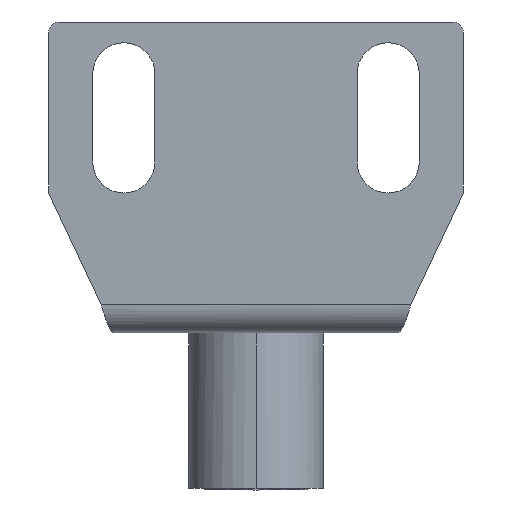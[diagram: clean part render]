
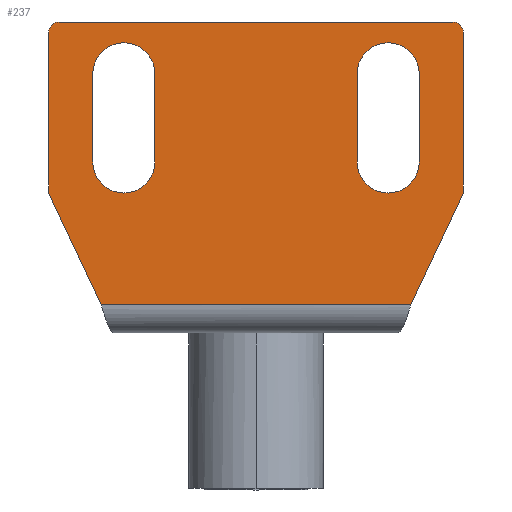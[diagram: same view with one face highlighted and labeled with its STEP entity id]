
A CAD part, front view. The second image highlights one B-rep face of the part: STEP entity #237.
In plain terms, the highlighted planar face has unit normal (0, -1, 0).
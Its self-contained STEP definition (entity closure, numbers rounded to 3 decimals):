
#4 = VERTEX_POINT ( 'NONE', #828 ) ;
#23 = AXIS2_PLACEMENT_3D ( 'NONE', #326, #907, #249 ) ;
#31 = EDGE_CURVE ( 'NONE', #479, #700, #263, .T. ) ;
#32 = ORIENTED_EDGE ( 'NONE', *, *, #647, .T. ) ;
#33 = CARTESIAN_POINT ( 'NONE',  ( -12.75, -2., -15.5 ) ) ;
#35 = DIRECTION ( 'NONE',  ( 0., 1., 0. ) ) ;
#52 = CARTESIAN_POINT ( 'NONE',  ( 15.75, -2., -15.5 ) ) ;
#53 = CARTESIAN_POINT ( 'NONE',  ( -12.75, -2., -4. ) ) ;
#62 = VECTOR ( 'NONE', #153, 1000. ) ;
#70 = LINE ( 'NONE', #976, #406 ) ;
#75 = CARTESIAN_POINT ( 'NONE',  ( 0., -2., -45.75 ) ) ;
#82 = EDGE_CURVE ( 'NONE', #521, #196, #541, .T. ) ;
#83 = DIRECTION ( 'NONE',  ( 0., 1., 0. ) ) ;
#88 = ORIENTED_EDGE ( 'NONE', *, *, #888, .F. ) ;
#96 = VECTOR ( 'NONE', #347, 1000. ) ;
#110 = VECTOR ( 'NONE', #1045, 1000. ) ;
#115 = VERTEX_POINT ( 'NONE', #122 ) ;
#122 = CARTESIAN_POINT ( 'NONE',  ( -19., -2., -2. ) ) ;
#129 = DIRECTION ( 'NONE',  ( 0., 0., 1. ) ) ;
#132 = CARTESIAN_POINT ( 'NONE',  ( 20., -2., 0. ) ) ;
#133 = VERTEX_POINT ( 'NONE', #228 ) ;
#150 = VERTEX_POINT ( 'NONE', #984 ) ;
#153 = DIRECTION ( 'NONE',  ( -0.426, 0., -0.905 ) ) ;
#160 = DIRECTION ( 'NONE',  ( 0., 1., 0. ) ) ;
#162 = VECTOR ( 'NONE', #633, 1000. ) ;
#174 = EDGE_CURVE ( 'NONE', #1000, #304, #322, .T. ) ;
#182 = EDGE_CURVE ( 'NONE', #700, #891, #641, .T. ) ;
#188 = CARTESIAN_POINT ( 'NONE',  ( -20., -2., -3. ) ) ;
#194 = AXIS2_PLACEMENT_3D ( 'NONE', #261, #160, #742 ) ;
#195 = EDGE_CURVE ( 'NONE', #196, #1000, #565, .T. ) ;
#196 = VERTEX_POINT ( 'NONE', #407 ) ;
#204 = CARTESIAN_POINT ( 'NONE',  ( 20., -2., -3. ) ) ;
#220 = EDGE_CURVE ( 'NONE', #843, #4, #656, .T. ) ;
#228 = CARTESIAN_POINT ( 'NONE',  ( -15.75, -2., -7. ) ) ;
#237 = ADVANCED_FACE ( 'NONE', ( #389, #972, #901 ), #730, .F. ) ;
#239 = CARTESIAN_POINT ( 'NONE',  ( 0., -2., -29.263 ) ) ;
#249 = DIRECTION ( 'NONE',  ( 0., 0., 1. ) ) ;
#261 = CARTESIAN_POINT ( 'NONE',  ( 12.75, -2., -7. ) ) ;
#263 = CIRCLE ( 'NONE', #440, 3. ) ;
#264 = AXIS2_PLACEMENT_3D ( 'NONE', #906, #704, #129 ) ;
#269 = ORIENTED_EDGE ( 'NONE', *, *, #682, .T. ) ;
#270 = ORIENTED_EDGE ( 'NONE', *, *, #526, .T. ) ;
#277 = DIRECTION ( 'NONE',  ( 0., 0., 1. ) ) ;
#297 = VECTOR ( 'NONE', #1057, 1000. ) ;
#300 = AXIS2_PLACEMENT_3D ( 'NONE', #999, #83, #477 ) ;
#304 = VERTEX_POINT ( 'NONE', #586 ) ;
#307 = CARTESIAN_POINT ( 'NONE',  ( -9.75, -2., -7. ) ) ;
#314 = ORIENTED_EDGE ( 'NONE', *, *, #195, .F. ) ;
#316 = DIRECTION ( 'NONE',  ( 0., 0., 1. ) ) ;
#322 = LINE ( 'NONE', #239, #297 ) ;
#326 = CARTESIAN_POINT ( 'NONE',  ( 12.75, -2., -15.5 ) ) ;
#332 = VECTOR ( 'NONE', #934, 1000. ) ;
#338 = DIRECTION ( 'NONE',  ( 0., 0., 1. ) ) ;
#341 = EDGE_LOOP ( 'NONE', ( #701, #850, #88, #864, #475, #314, #777, #344 ) ) ;
#344 = ORIENTED_EDGE ( 'NONE', *, *, #495, .T. ) ;
#347 = DIRECTION ( 'NONE',  ( -0.426, 0., 0.905 ) ) ;
#357 = DIRECTION ( 'NONE',  ( 0., 1., 0. ) ) ;
#366 = CIRCLE ( 'NONE', #1031, 1. ) ;
#384 = VECTOR ( 'NONE', #461, 1000. ) ;
#389 = FACE_BOUND ( 'NONE', #391, .T. ) ;
#391 = EDGE_LOOP ( 'NONE', ( #741, #269, #614, #620, #32 ) ) ;
#394 = CARTESIAN_POINT ( 'NONE',  ( 12.75, -2., -4. ) ) ;
#406 = VECTOR ( 'NONE', #316, 1000. ) ;
#407 = CARTESIAN_POINT ( 'NONE',  ( 20., -2., -18.5 ) ) ;
#440 = AXIS2_PLACEMENT_3D ( 'NONE', #552, #35, #789 ) ;
#461 = DIRECTION ( 'NONE',  ( 0., 0., 1. ) ) ;
#471 = CARTESIAN_POINT ( 'NONE',  ( 9.75, -2., -7. ) ) ;
#475 = ORIENTED_EDGE ( 'NONE', *, *, #174, .F. ) ;
#477 = DIRECTION ( 'NONE',  ( 0., 0., 1. ) ) ;
#479 = VERTEX_POINT ( 'NONE', #53 ) ;
#495 = EDGE_CURVE ( 'NONE', #521, #778, #946, .T. ) ;
#514 = VERTEX_POINT ( 'NONE', #188 ) ;
#521 = VERTEX_POINT ( 'NONE', #204 ) ;
#526 = EDGE_CURVE ( 'NONE', #4, #892, #881, .T. ) ;
#527 = DIRECTION ( 'NONE',  ( 0., -1., 0. ) ) ;
#538 = LINE ( 'NONE', #774, #96 ) ;
#541 = LINE ( 'NONE', #132, #110 ) ;
#546 = CARTESIAN_POINT ( 'NONE',  ( -20., -2., -18.5 ) ) ;
#552 = CARTESIAN_POINT ( 'NONE',  ( -12.75, -2., -7. ) ) ;
#555 = CARTESIAN_POINT ( 'NONE',  ( -9.75, -2., -15.5 ) ) ;
#558 = DIRECTION ( 'NONE',  ( 0., 0., -1. ) ) ;
#564 = DIRECTION ( 'NONE',  ( 0., 1., 0. ) ) ;
#565 = LINE ( 'NONE', #993, #62 ) ;
#578 = ORIENTED_EDGE ( 'NONE', *, *, #722, .T. ) ;
#579 = CARTESIAN_POINT ( 'NONE',  ( 0., -2., -2. ) ) ;
#581 = EDGE_CURVE ( 'NONE', #115, #514, #366, .T. ) ;
#586 = CARTESIAN_POINT ( 'NONE',  ( -14.937, -2., -29.263 ) ) ;
#593 = AXIS2_PLACEMENT_3D ( 'NONE', #1066, #564, #714 ) ;
#599 = CARTESIAN_POINT ( 'NONE',  ( -19., -2., -3. ) ) ;
#601 = CARTESIAN_POINT ( 'NONE',  ( 9.75, -2., -45.75 ) ) ;
#614 = ORIENTED_EDGE ( 'NONE', *, *, #31, .T. ) ;
#620 = ORIENTED_EDGE ( 'NONE', *, *, #182, .T. ) ;
#629 = CIRCLE ( 'NONE', #300, 3. ) ;
#633 = DIRECTION ( 'NONE',  ( 0., 0., 1. ) ) ;
#636 = CARTESIAN_POINT ( 'NONE',  ( -9.75, -2., -45.75 ) ) ;
#641 = LINE ( 'NONE', #636, #1067 ) ;
#644 = EDGE_CURVE ( 'NONE', #304, #933, #538, .T. ) ;
#647 = EDGE_CURVE ( 'NONE', #891, #150, #996, .T. ) ;
#656 = CIRCLE ( 'NONE', #23, 3. ) ;
#659 = CIRCLE ( 'NONE', #194, 3. ) ;
#665 = CARTESIAN_POINT ( 'NONE',  ( 15.75, -2., -7. ) ) ;
#670 = ORIENTED_EDGE ( 'NONE', *, *, #220, .T. ) ;
#682 = EDGE_CURVE ( 'NONE', #133, #479, #900, .T. ) ;
#688 = ORIENTED_EDGE ( 'NONE', *, *, #1003, .T. ) ;
#689 = DIRECTION ( 'NONE',  ( 0., 0., 1. ) ) ;
#693 = CARTESIAN_POINT ( 'NONE',  ( -20., -2., 0. ) ) ;
#695 = VECTOR ( 'NONE', #971, 1000. ) ;
#700 = VERTEX_POINT ( 'NONE', #307 ) ;
#701 = ORIENTED_EDGE ( 'NONE', *, *, #780, .F. ) ;
#704 = DIRECTION ( 'NONE',  ( 0., -1., 0. ) ) ;
#714 = DIRECTION ( 'NONE',  ( 0., 0., 1. ) ) ;
#717 = AXIS2_PLACEMENT_3D ( 'NONE', #33, #357, #689 ) ;
#722 = EDGE_CURVE ( 'NONE', #744, #843, #802, .T. ) ;
#725 = VERTEX_POINT ( 'NONE', #394 ) ;
#730 = PLANE ( 'NONE',  #808 ) ;
#741 = ORIENTED_EDGE ( 'NONE', *, *, #1073, .T. ) ;
#742 = DIRECTION ( 'NONE',  ( 0., 0., 1. ) ) ;
#744 = VERTEX_POINT ( 'NONE', #665 ) ;
#749 = DIRECTION ( 'NONE',  ( 0., 1., 0. ) ) ;
#766 = EDGE_CURVE ( 'NONE', #725, #744, #659, .T. ) ;
#774 = CARTESIAN_POINT ( 'NONE',  ( -20., -2., -18.5 ) ) ;
#777 = ORIENTED_EDGE ( 'NONE', *, *, #82, .F. ) ;
#778 = VERTEX_POINT ( 'NONE', #1001 ) ;
#780 = EDGE_CURVE ( 'NONE', #115, #778, #1076, .T. ) ;
#789 = DIRECTION ( 'NONE',  ( 0., 0., 1. ) ) ;
#797 = ORIENTED_EDGE ( 'NONE', *, *, #766, .T. ) ;
#802 = LINE ( 'NONE', #812, #695 ) ;
#808 = AXIS2_PLACEMENT_3D ( 'NONE', #75, #749, #338 ) ;
#812 = CARTESIAN_POINT ( 'NONE',  ( 15.75, -2., -45.75 ) ) ;
#814 = CARTESIAN_POINT ( 'NONE',  ( 14.937, -2., -29.263 ) ) ;
#828 = CARTESIAN_POINT ( 'NONE',  ( 9.75, -2., -15.5 ) ) ;
#843 = VERTEX_POINT ( 'NONE', #52 ) ;
#850 = ORIENTED_EDGE ( 'NONE', *, *, #581, .T. ) ;
#864 = ORIENTED_EDGE ( 'NONE', *, *, #644, .F. ) ;
#881 = LINE ( 'NONE', #601, #384 ) ;
#888 = EDGE_CURVE ( 'NONE', #933, #514, #1054, .T. ) ;
#891 = VERTEX_POINT ( 'NONE', #555 ) ;
#892 = VERTEX_POINT ( 'NONE', #471 ) ;
#900 = CIRCLE ( 'NONE', #593, 3. ) ;
#901 = FACE_OUTER_BOUND ( 'NONE', #341, .T. ) ;
#906 = CARTESIAN_POINT ( 'NONE',  ( 19., -2., -3. ) ) ;
#907 = DIRECTION ( 'NONE',  ( 0., 1., 0. ) ) ;
#933 = VERTEX_POINT ( 'NONE', #546 ) ;
#934 = DIRECTION ( 'NONE',  ( 1., 0., 0. ) ) ;
#946 = CIRCLE ( 'NONE', #264, 1. ) ;
#971 = DIRECTION ( 'NONE',  ( 0., 0., -1. ) ) ;
#972 = FACE_BOUND ( 'NONE', #1004, .T. ) ;
#976 = CARTESIAN_POINT ( 'NONE',  ( -15.75, -2., -45.75 ) ) ;
#984 = CARTESIAN_POINT ( 'NONE',  ( -15.75, -2., -15.5 ) ) ;
#993 = CARTESIAN_POINT ( 'NONE',  ( 20., -2., -18.5 ) ) ;
#996 = CIRCLE ( 'NONE', #717, 3. ) ;
#999 = CARTESIAN_POINT ( 'NONE',  ( 12.75, -2., -7. ) ) ;
#1000 = VERTEX_POINT ( 'NONE', #814 ) ;
#1001 = CARTESIAN_POINT ( 'NONE',  ( 19., -2., -2. ) ) ;
#1003 = EDGE_CURVE ( 'NONE', #892, #725, #629, .T. ) ;
#1004 = EDGE_LOOP ( 'NONE', ( #270, #688, #797, #578, #670 ) ) ;
#1031 = AXIS2_PLACEMENT_3D ( 'NONE', #599, #527, #277 ) ;
#1045 = DIRECTION ( 'NONE',  ( 0., 0., -1. ) ) ;
#1054 = LINE ( 'NONE', #693, #162 ) ;
#1057 = DIRECTION ( 'NONE',  ( -1., 0., 0. ) ) ;
#1066 = CARTESIAN_POINT ( 'NONE',  ( -12.75, -2., -7. ) ) ;
#1067 = VECTOR ( 'NONE', #558, 1000. ) ;
#1073 = EDGE_CURVE ( 'NONE', #150, #133, #70, .T. ) ;
#1076 = LINE ( 'NONE', #579, #332 ) ;
